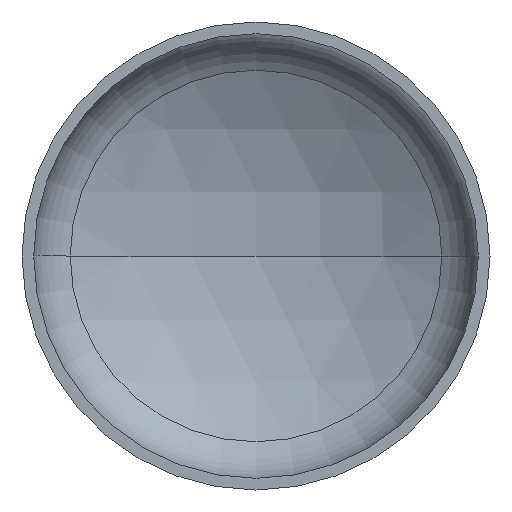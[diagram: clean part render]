
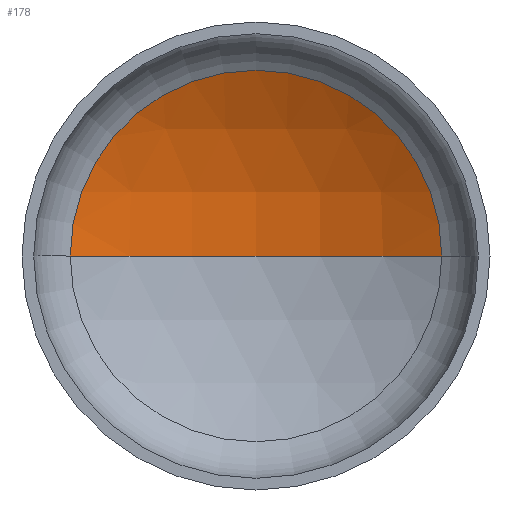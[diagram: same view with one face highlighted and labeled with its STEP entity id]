
A CAD part, front view. The second image highlights one B-rep face of the part: STEP entity #178.
In plain terms, the highlighted spherical face has radius 1600 mm.
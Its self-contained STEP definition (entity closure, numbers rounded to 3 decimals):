
#14 = EDGE_LOOP ( 'NONE', ( #121, #104, #119 ) ) ;
#15 = VERTEX_POINT ( 'NONE', #291 ) ;
#25 = VERTEX_POINT ( 'NONE', #365 ) ;
#69 = DIRECTION ( 'NONE',  ( 0., -1., 0. ) ) ;
#88 = VERTEX_POINT ( 'NONE', #252 ) ;
#104 = ORIENTED_EDGE ( 'NONE', *, *, #255, .T. ) ;
#119 = ORIENTED_EDGE ( 'NONE', *, *, #253, .T. ) ;
#121 = ORIENTED_EDGE ( 'NONE', *, *, #256, .F. ) ;
#140 = AXIS2_PLACEMENT_3D ( 'NONE', #248, #281, #278 ) ;
#151 = AXIS2_PLACEMENT_3D ( 'NONE', #192, #190, #191 ) ;
#153 = AXIS2_PLACEMENT_3D ( 'NONE', #277, #69, #164 ) ;
#164 = DIRECTION ( 'NONE',  ( 1., 0., 0. ) ) ;
#176 = CIRCLE ( 'NONE', #151, 1600. ) ;
#178 = ADVANCED_FACE ( 'NONE', ( #187 ), #335, .F. ) ;
#187 = FACE_OUTER_BOUND ( 'NONE', #14, .T. ) ;
#190 = DIRECTION ( 'NONE',  ( 0., 0., -1. ) ) ;
#191 = DIRECTION ( 'NONE',  ( -1., 0., 0. ) ) ;
#192 = CARTESIAN_POINT ( 'NONE',  ( 0., -970.045, 0. ) ) ;
#215 = AXIS2_PLACEMENT_3D ( 'NONE', #321, #319, #317 ) ;
#248 = CARTESIAN_POINT ( 'NONE',  ( 0., -970.045, 0. ) ) ;
#252 = CARTESIAN_POINT ( 'NONE',  ( 793.798, 419.158, 0. ) ) ;
#253 = EDGE_CURVE ( 'NONE', #88, #15, #254, .T. ) ;
#254 = CIRCLE ( 'NONE', #153, 793.798 ) ;
#255 = EDGE_CURVE ( 'NONE', #25, #88, #176, .T. ) ;
#256 = EDGE_CURVE ( 'NONE', #25, #15, #373, .T. ) ;
#277 = CARTESIAN_POINT ( 'NONE',  ( 0., 419.158, 0. ) ) ;
#278 = DIRECTION ( 'NONE',  ( 1., 0., 0. ) ) ;
#281 = DIRECTION ( 'NONE',  ( 0., 0., 1. ) ) ;
#291 = CARTESIAN_POINT ( 'NONE',  ( -793.798, 419.158, 0. ) ) ;
#317 = DIRECTION ( 'NONE',  ( -1., 0., 0. ) ) ;
#319 = DIRECTION ( 'NONE',  ( 0., 0., -1. ) ) ;
#321 = CARTESIAN_POINT ( 'NONE',  ( 0., -970.045, 0. ) ) ;
#335 = SPHERICAL_SURFACE ( 'NONE', #215, 1600. ) ;
#365 = CARTESIAN_POINT ( 'NONE',  ( 0., 629.955, 0. ) ) ;
#373 = CIRCLE ( 'NONE', #140, 1600. ) ;
